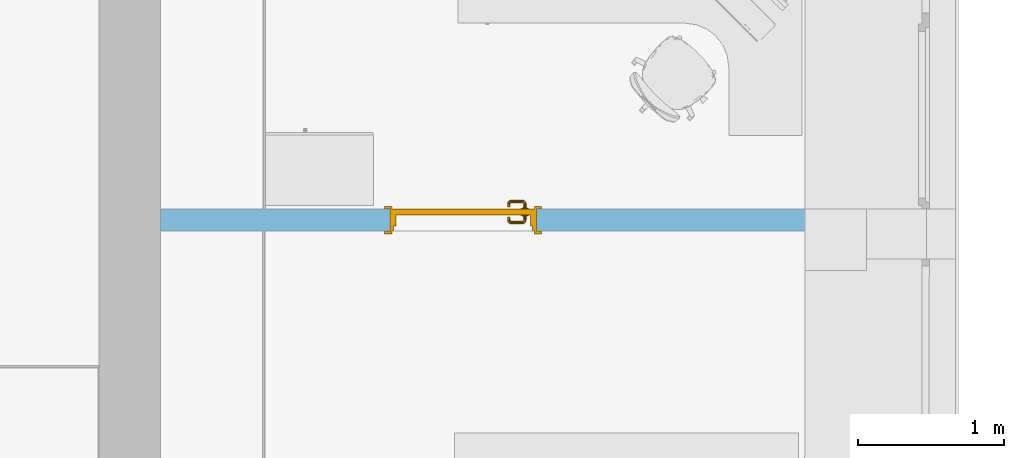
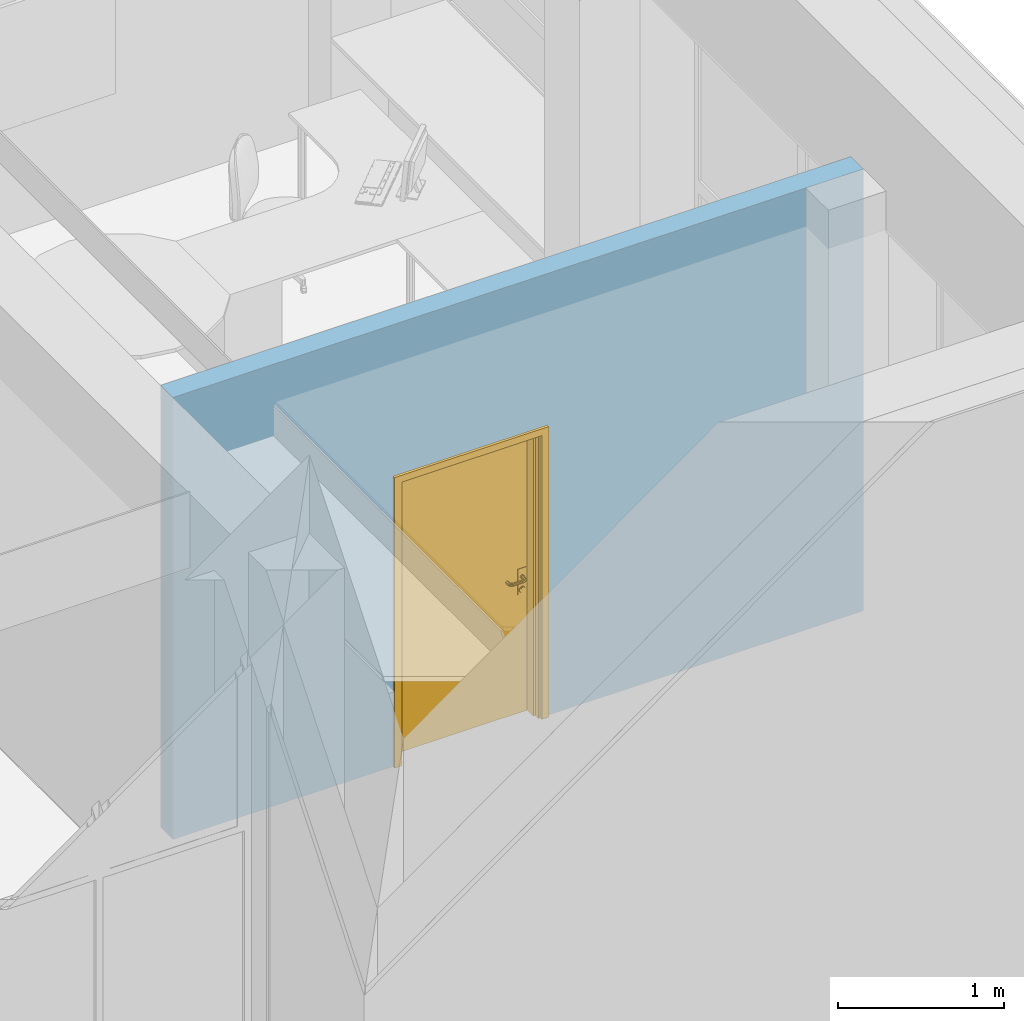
# One storey, part 45 of 194: 1 door, 1 opening, plus 1 element that does not belong to this part.
"""IFC2X3 building model written with IfcOpenShell, lengths in millimetres."""

from ifc_helpers import new_model, entity, si_unit, converted_unit, derived_unit, money_unit, direction, frame, origin_with_axes, origin_2d_with_axis, place, context, subcontext, project, spatial, polyline, rectangle, outline, extrude, open_shell, faceted_brep, surface_model, material, layer, layer_set, layer_usage, type_object, element, fill, save


model = new_model("IFC2X3")

# Units and contexts
model_context = context("Model", 3, precision=1e-05, world=origin_with_axes(), true_north=direction((0.0, 1.0)))
body_context = subcontext(model_context, "Body", "Model", "MODEL_VIEW")
ifc_project = project(units=[si_unit("LENGTHUNIT", "METRE", prefix="MILLI"), si_unit("AREAUNIT", "SQUARE_METRE"), si_unit("VOLUMEUNIT", "CUBIC_METRE"), converted_unit("PLANEANGLEUNIT", "DEGREE", entity("IfcPlaneAngleMeasure", 0.0174532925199), si_unit("PLANEANGLEUNIT", "RADIAN"), dimensions=[0, 0, 0, 0, 0, 0, 0]), si_unit("SOLIDANGLEUNIT", "STERADIAN"), money_unit("EUR"), converted_unit("TIMEUNIT", "Year", entity("IfcTimeMeasure", 31556926.0), si_unit("TIMEUNIT", "SECOND"), dimensions=[0, 0, 1, 0, 0, 0, 0]), si_unit("MASSUNIT", "GRAM", prefix="KILO"), si_unit("THERMODYNAMICTEMPERATUREUNIT", "DEGREE_CELSIUS"), si_unit("LUMINOUSINTENSITYUNIT", "LUMEN"), si_unit("ENERGYUNIT", "JOULE", prefix="MEGA"), derived_unit("THERMALCONDUCTANCEUNIT", [(si_unit("POWERUNIT", "WATT"), 1), (si_unit("LENGTHUNIT", "METRE"), -1), (si_unit("THERMODYNAMICTEMPERATUREUNIT", "KELVIN"), -1)]), derived_unit("SPECIFICHEATCAPACITYUNIT", [(si_unit("ENERGYUNIT", "JOULE"), 1), (si_unit("MASSUNIT", "GRAM", prefix="KILO"), -1), (si_unit("THERMODYNAMICTEMPERATUREUNIT", "KELVIN"), -1)]), derived_unit("MASSDENSITYUNIT", [(si_unit("MASSUNIT", "GRAM", prefix="KILO"), 1), (si_unit("VOLUMEUNIT", "CUBIC_METRE"), -1)])], contexts=[model_context])

# Site, building, storey
site_placement = place(None, origin_with_axes())
site = spatial("IfcSite", under=ifc_project, at=site_placement, Name="Site", CompositionType="ELEMENT")
building_placement = place(site_placement, origin_with_axes())
building = spatial("IfcBuilding", under=site, at=building_placement, Name="Building", CompositionType="ELEMENT")
storey_placement = place(building_placement, frame((0.0, 0.0, 3000.0), z_axis=(0.0, 0.0, 1.0), x_axis=(1.0, 0.0, 0.0)))
storey = spatial("IfcBuildingStorey", under=building, at=storey_placement, Name="2 KORRUS", CompositionType="ELEMENT", Elevation=3000.0)

# Wall, opening, door
ifc_material = material(Name="Kivi -Ol.Olev Konstruktsioon")
ifc_layer = layer(ifc_material, 150.0, ventilated="UNKNOWN")
ifc_layer_set = layer_set([ifc_layer], Name="ol.olev ss 150")
ifc_layer_usage = layer_usage(ifc_layer_set, "AXIS2", "POSITIVE", -150.0)
wall_type = type_object("IfcWallType", Name="SW - 022", PredefinedType="NOTDEFINED")
wall_placement = place(storey_placement, frame((39738.0685274, 7740.14586044, 0.0), z_axis=(0.0, 0.0, 1.0), x_axis=(1.0, 0.0, 0.0)))
wall = element("IfcWallStandardCase", 1, at=wall_placement, inside=storey, type_object=wall_type, material=ifc_layer_usage, Name="ol.olev ss 150", context=body_context, shape_type="SweptSolid", body=[
    extrude(outline(polyline([(420.0, -150.0), (5222.39994979, -150.0), (5222.48328174, 0.0), (420.0, 0.0), (420.0, -150.0)])), origin_with_axes(), (0.0, 0.0, 1.0), 3250.0),
])
opening_placement = place(wall_placement, frame((2487.1190222, 0.0, 0.0), z_axis=(0.0, 0.0, 1.0), x_axis=(1.0, 0.0, 0.0)))
opening = element("IfcOpeningElement", 2, at=opening_placement, cuts=wall, Name="Siseuks * Door 22", context=body_context, shape_type="SweptSolid", body=[
    extrude(rectangle(XDim=1000.0, YDim=2100.0, at=origin_2d_with_axis()), frame((0.0, -150.0, 1050.0), z_axis=(0.0, -1.0, 0.0), x_axis=(-1.0, 0.0, 0.0)), (0.0, 0.0, -1.0), 450.0),
    extrude(rectangle(XDim=1074.0, YDim=2137.0, at=origin_2d_with_axis()), frame((0.0, -150.0, 1068.5), z_axis=(0.0, -1.0, 0.0), x_axis=(-1.0, 0.0, 0.0)), (0.0, 0.0, 1.0), 150.0),
    extrude(rectangle(XDim=1074.0, YDim=2137.0, at=origin_2d_with_axis()), frame((0.0, 0.0, 1068.5), z_axis=(0.0, 1.0, 0.0), x_axis=(-1.0, 0.0, 0.0)), (0.0, 0.0, 1.0), 150.0),
])
door_style = type_object("IfcDoorStyle", Name="SU-C205   1\xa0000×2\xa0100", ConstructionType="NOTDEFINED", OperationType="SINGLE_SWING_LEFT", ParameterTakesPrecedence=False, Sizeable=False)
door_placement = place(opening_placement, frame((-500.0, 0.0, 0.0), z_axis=(0.0, 0.0, 1.0), x_axis=(1.0, 0.0, 0.0)))
door = element("IfcDoor", 3, at=door_placement, inside=storey, type_object=door_style, Name="Siseuks * Door 22", OverallHeight=2100.0, OverallWidth=1000.0, context=body_context, shape_type="SurfaceModel", body=[
    faceted_brep([(1000.0, -115.0, 0.0), (1000.0, -150.0, 0.0), (975.0, -150.0, 0.0), (975.0, -115.0, 0.0), (1000.0, -115.0, 2100.0), (1000.0, -150.0, 2100.0), (975.0, -150.0, 2075.0), (975.0, -115.0, 2075.0)], [[[0, 1, 2, 3]], [[4, 5, 1, 0]], [[1, 5, 6, 2]], [[3, 2, 6, 7]], [[0, 3, 7, 4]], [[7, 6, 5, 4]]]),
    faceted_brep([(0.0, -115.0, 2100.0), (0.0, -150.0, 2100.0), (25.0, -150.0, 2075.0), (25.0, -115.0, 2075.0), (0.0, -115.0, 0.0), (0.0, -150.0, 0.0), (25.0, -150.0, 0.0), (25.0, -115.0, 0.0)], [[[0, 1, 2, 3]], [[4, 5, 1, 0]], [[1, 5, 6, 2]], [[3, 2, 6, 7]], [[0, 3, 7, 4]], [[7, 6, 5, 4]]]),
    faceted_brep([(975.0, -115.0, 2075.0), (975.0, -150.0, 2075.0), (25.0, -150.0, 2075.0), (25.0, -115.0, 2075.0), (1000.0, -115.0, 2100.0), (1000.0, -150.0, 2100.0), (0.0, -150.0, 2100.0), (0.0, -115.0, 2100.0)], [[[0, 1, 2, 3]], [[4, 5, 1, 0]], [[1, 5, 6, 2]], [[3, 2, 6, 7]], [[0, 3, 7, 4]], [[7, 6, 5, 4]]]),
    faceted_brep([(1037.0, -169.0, 0.0), (987.0, -169.0, 0.0), (987.0, -150.0, 0.0), (1037.0, -150.0, 0.0), (1037.0, -169.0, 2137.0), (987.0, -169.0, 2087.0), (987.0, -150.0, 2087.0), (1037.0, -150.0, 2137.0)], [[[0, 1, 2, 3]], [[0, 4, 5, 1]], [[1, 5, 6, 2]], [[3, 2, 6, 7]], [[4, 0, 3, 7]], [[5, 4, 7, 6]]]),
    faceted_brep([(-37.0, -169.0, 2137.0), (13.0, -169.0, 2087.0), (13.0, -150.0, 2087.0), (-37.0, -150.0, 2137.0), (-37.0, -169.0, 0.0), (13.0, -169.0, 0.0), (13.0, -150.0, 0.0), (-37.0, -150.0, 0.0)], [[[0, 1, 2, 3]], [[0, 4, 5, 1]], [[1, 5, 6, 2]], [[3, 2, 6, 7]], [[4, 0, 3, 7]], [[5, 4, 7, 6]]]),
    faceted_brep([(1037.0, -169.0, 2137.0), (987.0, -169.0, 2087.0), (987.0, -150.0, 2087.0), (1037.0, -150.0, 2137.0), (-37.0, -169.0, 2137.0), (13.0, -169.0, 2087.0), (13.0, -150.0, 2087.0), (-37.0, -150.0, 2137.0)], [[[0, 1, 2, 3]], [[0, 4, 5, 1]], [[1, 5, 6, 2]], [[3, 2, 6, 7]], [[4, 0, 3, 7]], [[5, 4, 7, 6]]]),
    faceted_brep([(1037.0, 19.0000000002, 0.0), (1037.0, 0.0, 0.0), (987.0, 0.0, 0.0), (987.0, 19.0000000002, 0.0), (1037.0, 19.0000000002, 2137.0), (1037.0, 0.0, 2137.0), (987.0, 0.0, 2087.0), (987.0, 19.0000000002, 2087.0)], [[[0, 1, 2, 3]], [[4, 5, 1, 0]], [[1, 5, 6, 2]], [[3, 2, 6, 7]], [[0, 3, 7, 4]], [[7, 6, 5, 4]]]),
    faceted_brep([(-37.0, 19.0000000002, 2137.0), (-37.0, 0.0, 2137.0), (13.0, 0.0, 2087.0), (13.0, 19.0000000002, 2087.0), (-37.0, 19.0000000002, 0.0), (-37.0, 0.0, 0.0), (13.0, 0.0, 0.0), (13.0, 19.0000000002, 0.0)], [[[0, 1, 2, 3]], [[4, 5, 1, 0]], [[1, 5, 6, 2]], [[3, 2, 6, 7]], [[0, 3, 7, 4]], [[7, 6, 5, 4]]]),
    faceted_brep([(1037.0, 19.0000000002, 2137.0), (1037.0, 0.0, 2137.0), (987.0, 0.0, 2087.0), (987.0, 19.0000000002, 2087.0), (-37.0, 19.0000000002, 2137.0), (-37.0, 0.0, 2137.0), (13.0, 0.0, 2087.0), (13.0, 19.0000000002, 2087.0)], [[[0, 1, 2, 3]], [[4, 5, 1, 0]], [[1, 5, 6, 2]], [[3, 2, 6, 7]], [[0, 3, 7, 4]], [[7, 6, 5, 4]]]),
    faceted_brep([(960.0, -40.0, 0.0), (960.0, -115.0, 0.0), (960.0, -115.0, 2060.0), (960.0, -40.0, 2060.0), (972.0, -40.0, 0.0), (972.0, 0.0, 0.0), (1000.0, 0.0, 0.0), (1000.0, -115.0, 0.0), (1000.0, -115.0, 2060.0), (972.0, -40.0, 2060.0), (1000.0, 0.0, 2060.0), (972.0, 0.0, 2060.0)], [[[0, 1, 2, 3]], [[4, 5, 6, 7, 1, 0]], [[1, 7, 8, 2]], [[9, 3, 2, 8, 10, 11]], [[9, 4, 0, 3]], [[11, 5, 4, 9]], [[11, 10, 6, 5]], [[6, 10, 8, 7]]]),
    faceted_brep([(28.0, -40.0, 2060.0), (28.0, 0.0, 2060.0), (0.0, 0.0, 2060.0), (0.0, -115.0, 2060.0), (40.0, -115.0, 2060.0), (40.0, -40.0, 2060.0), (28.0, -40.0, 0.0), (28.0, 0.0, 0.0), (0.0, 0.0, 0.0), (0.0, -115.0, 0.0), (40.0, -115.0, 0.0), (40.0, -40.0, 0.0)], [[[0, 1, 2, 3, 4, 5]], [[0, 6, 7, 1]], [[7, 8, 2, 1]], [[2, 8, 9, 3]], [[3, 9, 10, 4]], [[5, 4, 10, 11]], [[5, 11, 6, 0]], [[6, 11, 10, 9, 8, 7]]]),
    faceted_brep([(972.0, 0.0, 2072.0), (28.0, 0.0, 2072.0), (28.0, 0.0, 2060.0), (0.0, 0.0, 2060.0), (0.0, 0.0, 2100.0), (1000.0, 0.0, 2100.0), (1000.0, 0.0, 2060.0), (972.0, 0.0, 2060.0), (972.0, -40.0, 2072.0), (28.0, -40.0, 2072.0), (28.0, -40.0, 2060.0), (40.0, -40.0, 2060.0), (40.0, -115.0, 2060.0), (0.0, -115.0, 2060.0), (0.0, -115.0, 2100.0), (1000.0, -115.0, 2100.0), (1000.0, -115.0, 2060.0), (972.0, -40.0, 2060.0), (960.0, -115.0, 2060.0), (960.0, -40.0, 2060.0)], [[[0, 1, 2, 3, 4, 5, 6, 7]], [[0, 8, 9, 1]], [[1, 9, 10, 2]], [[10, 11, 12, 13, 3, 2]], [[4, 3, 13, 14]], [[5, 4, 14, 15]], [[6, 5, 15, 16]], [[17, 7, 6, 16, 18, 19]], [[7, 17, 8, 0]], [[10, 9, 8, 17, 19, 11]], [[19, 18, 12, 11]], [[12, 18, 16, 15, 14, 13]]]),
    faceted_brep([(950.5, -40.0, 1060.0), (893.5, -40.0, 1060.0), (893.5, -42.9999999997, 1060.0), (950.5, -42.9999999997, 1060.0), (950.5, -40.0, 870.0), (893.5, -40.0, 870.0), (893.5, -42.9999999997, 870.0), (950.5, -42.9999999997, 870.0)], [[[0, 1, 2, 3]], [[0, 4, 5, 1]], [[1, 5, 6, 2]], [[3, 2, 6, 7]], [[4, 0, 3, 7]], [[5, 4, 7, 6]]]),
    surface_model("IfcShellBasedSurfaceModel", [(912.0, -52.9999999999, 1000.0), (914.928932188, -52.9999999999, 992.928932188), (914.928932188, -72.3035606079, 992.928932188), (912.0, -72.0150859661, 1000.0), (922.0, -52.9999999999, 990.0), (922.0, -73.0000000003, 990.0), (913.816790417, -77.8946748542, 992.928932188), (911.057796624, -76.7518622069, 1000.0), (914.928932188, -52.9999999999, 1007.07106781), (914.928932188, -72.3035606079, 1007.07106781), (929.071067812, -52.9999999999, 992.928932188), (929.071067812, -73.6964393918, 992.928932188), (920.47759065, -80.6536686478, 990.0), (911.044179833, -82.0441798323, 992.928932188), (908.932537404, -79.9325374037, 1000.0), (913.816790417, -77.8946748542, 1007.07106781), (922.0, -52.9999999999, 1010.0), (922.0, -73.0000000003, 1010.0), (932.0, -52.9999999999, 1000.0), (932.0, -73.9849140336, 1000.0), (927.138390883, -83.4126624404, 992.928932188), (916.142135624, -87.1421356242, 990.0), (906.894674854, -84.8167904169, 992.928932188), (905.751862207, -82.0577966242, 1000.0), (911.044179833, -82.0441798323, 1007.07106781), (920.47759065, -80.6536686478, 1010.0), (929.071067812, -52.9999999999, 1007.07106781), (929.071067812, -73.6964393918, 1007.07106781), (929.897384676, -84.5554750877, 1000.0), (921.240091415, -92.2400914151, 992.928932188), (909.653668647, -91.4775906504, 990.0), (901.303560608, -85.9289321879, 992.928932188), (901.015085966, -82.9999999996, 1000.0), (906.894674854, -84.8167904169, 1007.07106781), (916.142135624, -87.1421356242, 1010.0), (927.138390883, -83.4126624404, 1007.07106781), (923.351733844, -94.3517338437, 1000.0), (912.41266244, -98.1383908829, 992.928932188), (902.0, -92.9999999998, 990.0), (832.696439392, -85.9289321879, 992.928932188), (832.984914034, -82.9999999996, 1000.0), (901.303560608, -85.9289321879, 1007.07106781), (909.653668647, -91.4775906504, 1010.0), (921.240091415, -92.2400914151, 1007.07106781), (913.555475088, -100.897384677, 1000.0), (902.696439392, -100.071067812, 992.928932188), (832.0, -92.9999999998, 990.0), (827.105325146, -84.8167904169, 992.928932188), (828.248137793, -82.0577966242, 1000.0), (832.696439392, -85.9289321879, 1007.07106781), (902.0, -92.9999999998, 1010.0), (912.41266244, -98.1383908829, 1007.07106781), (902.984914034, -103.0, 1000.0), (831.303560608, -100.071067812, 992.928932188), (824.346331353, -91.4775906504, 990.0), (822.955820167, -82.0441798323, 992.928932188), (825.067462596, -79.9325374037, 1000.0), (827.105325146, -84.8167904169, 1007.07106781), (832.0, -92.9999999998, 1010.0), (902.696439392, -100.071067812, 1007.07106781), (831.015085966, -103.0, 1000.0), (821.58733756, -98.1383908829, 992.928932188), (817.857864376, -87.1421356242, 990.0), (820.183209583, -77.8946748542, 992.928932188), (822.942203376, -76.7518622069, 1000.0), (822.955820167, -82.0441798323, 1007.07106781), (824.346331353, -91.4775906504, 1010.0), (831.303560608, -100.071067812, 1007.07106781), (820.444524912, -100.897384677, 1000.0), (812.759908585, -92.2400914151, 992.928932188), (813.52240935, -80.6536686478, 990.0), (819.071067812, -72.3035606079, 992.928932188), (822.0, -72.0150859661, 1000.0), (820.183209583, -77.8946748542, 1007.07106781), (817.857864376, -87.1421356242, 1010.0), (821.58733756, -98.1383908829, 1007.07106781), (810.648266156, -94.3517338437, 1000.0), (806.861609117, -83.4126624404, 992.928932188), (812.0, -73.0000000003, 990.0), (819.071067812, -52.9999999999, 992.928932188), (822.0, -52.9999999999, 1000.0), (819.071067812, -72.3035606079, 1007.07106781), (813.52240935, -80.6536686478, 1010.0), (812.759908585, -92.2400914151, 1007.07106781), (804.102615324, -84.5554750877, 1000.0), (804.928932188, -73.6964393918, 992.928932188), (812.0, -52.9999999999, 990.0), (804.928932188, -52.9999999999, 992.928932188), (802.0, -52.9999999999, 1000.0), (804.928932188, -52.9999999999, 1007.07106781), (812.0, -52.9999999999, 1010.0), (819.071067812, -52.9999999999, 1007.07106781), (812.0, -73.0000000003, 1010.0), (806.861609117, -83.4126624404, 1007.07106781), (802.0, -73.9849140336, 1000.0), (804.928932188, -73.6964393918, 1007.07106781)], [open_shell([[[0, 1, 2, 3]], [[1, 4, 5, 2]], [[3, 2, 6, 7]], [[8, 0, 3, 9]], [[4, 10, 11, 5]], [[2, 5, 12, 6]], [[7, 6, 13, 14]], [[9, 3, 7, 15]], [[16, 8, 9, 17]], [[10, 18, 19, 11]], [[5, 11, 20, 12]], [[6, 12, 21, 13]], [[14, 13, 22, 23]], [[15, 7, 14, 24]], [[17, 9, 15, 25]], [[26, 16, 17, 27]], [[18, 26, 27, 19]], [[11, 19, 28, 20]], [[12, 20, 29, 21]], [[13, 21, 30, 22]], [[23, 22, 31, 32]], [[24, 14, 23, 33]], [[25, 15, 24, 34]], [[27, 17, 25, 35]], [[19, 27, 35, 28]], [[20, 28, 36, 29]], [[21, 29, 37, 30]], [[22, 30, 38, 31]], [[32, 31, 39, 40]], [[33, 23, 32, 41]], [[34, 24, 33, 42]], [[35, 25, 34, 43]], [[28, 35, 43, 36]], [[29, 36, 44, 37]], [[30, 37, 45, 38]], [[31, 38, 46, 39]], [[40, 39, 47, 48]], [[41, 32, 40, 49]], [[42, 33, 41, 50]], [[43, 34, 42, 51]], [[36, 43, 51, 44]], [[37, 44, 52, 45]], [[38, 45, 53, 46]], [[39, 46, 54, 47]], [[48, 47, 55, 56]], [[49, 40, 48, 57]], [[50, 41, 49, 58]], [[51, 42, 50, 59]], [[44, 51, 59, 52]], [[45, 52, 60, 53]], [[46, 53, 61, 54]], [[47, 54, 62, 55]], [[56, 55, 63, 64]], [[57, 48, 56, 65]], [[58, 49, 57, 66]], [[59, 50, 58, 67]], [[52, 59, 67, 60]], [[53, 60, 68, 61]], [[54, 61, 69, 62]], [[55, 62, 70, 63]], [[64, 63, 71, 72]], [[65, 56, 64, 73]], [[66, 57, 65, 74]], [[67, 58, 66, 75]], [[60, 67, 75, 68]], [[61, 68, 76, 69]], [[62, 69, 77, 70]], [[63, 70, 78, 71]], [[72, 71, 79, 80]], [[73, 64, 72, 81]], [[74, 65, 73, 82]], [[75, 66, 74, 83]], [[68, 75, 83, 76]], [[69, 76, 84, 77]], [[70, 77, 85, 78]], [[71, 78, 86, 79]], [[80, 79, 86, 87, 88, 89, 90, 91]], [[81, 72, 80, 91]], [[82, 73, 81, 92]], [[83, 74, 82, 93]], [[76, 83, 93, 84]], [[77, 84, 94, 85]], [[78, 85, 87, 86]], [[85, 94, 88, 87]], [[94, 95, 89, 88]], [[95, 92, 90, 89]], [[92, 81, 91, 90]], [[93, 82, 92, 95]], [[84, 93, 95, 94]]])]),
    faceted_brep([(911.607695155, -52.9999999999, 994.0), (910.0, -52.9999999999, 1000.0), (909.0, -42.9999999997, 1000.0), (910.741669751, -42.9999999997, 993.5), (916.0, -52.9999999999, 989.607695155), (922.0, -52.9999999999, 988.0), (928.0, -52.9999999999, 989.607695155), (932.392304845, -52.9999999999, 994.0), (934.0, -52.9999999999, 1000.0), (932.392304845, -52.9999999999, 1006.0), (928.0, -52.9999999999, 1010.39230485), (922.0, -52.9999999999, 1012.0), (916.0, -52.9999999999, 1010.39230485), (911.607695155, -52.9999999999, 1006.0), (910.741669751, -42.9999999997, 1006.5), (915.5, -42.9999999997, 1011.25833025), (922.0, -42.9999999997, 1013.0), (928.5, -42.9999999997, 1011.25833025), (933.258330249, -42.9999999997, 1006.5), (935.0, -42.9999999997, 1000.0), (933.258330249, -42.9999999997, 993.5), (928.5, -42.9999999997, 988.741669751), (922.0, -42.9999999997, 987.0), (915.5, -42.9999999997, 988.741669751)], [[[0, 1, 2, 3]], [[1, 0, 4, 5, 6, 7, 8, 9, 10, 11, 12, 13]], [[1, 13, 14, 2]], [[2, 14, 15, 16, 17, 18, 19, 20, 21, 22, 23, 3]], [[4, 0, 3, 23]], [[5, 4, 23, 22]], [[6, 5, 22, 21]], [[7, 6, 21, 20]], [[8, 7, 20, 19]], [[9, 8, 19, 18]], [[10, 9, 18, 17]], [[11, 10, 17, 16]], [[12, 11, 16, 15]], [[13, 12, 15, 14]]]),
    faceted_brep([(904.679491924, -46.9999999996, 895.0), (902.0, -46.9999999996, 905.0), (900.0, -42.9999999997, 905.0), (902.947441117, -42.9999999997, 894.0), (912.0, -46.9999999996, 887.679491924), (922.0, -46.9999999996, 885.0), (932.0, -46.9999999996, 887.679491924), (939.320508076, -46.9999999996, 895.0), (942.0, -46.9999999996, 905.0), (939.320508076, -46.9999999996, 915.0), (932.0, -46.9999999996, 922.320508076), (922.0, -46.9999999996, 925.0), (912.0, -46.9999999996, 922.320508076), (904.679491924, -46.9999999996, 915.0), (902.947441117, -42.9999999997, 916.0), (911.0, -42.9999999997, 924.052558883), (922.0, -42.9999999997, 927.0), (933.0, -42.9999999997, 924.052558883), (941.052558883, -42.9999999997, 916.0), (944.0, -42.9999999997, 905.0), (941.052558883, -42.9999999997, 894.0), (933.0, -42.9999999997, 885.947441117), (922.0, -42.9999999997, 883.0), (911.0, -42.9999999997, 885.947441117)], [[[0, 1, 2, 3]], [[1, 0, 4, 5, 6, 7, 8, 9, 10, 11, 12, 13]], [[1, 13, 14, 2]], [[2, 14, 15, 16, 17, 18, 19, 20, 21, 22, 23, 3]], [[4, 0, 3, 23]], [[5, 4, 23, 22]], [[6, 5, 22, 21]], [[7, 6, 21, 20]], [[8, 7, 20, 19]], [[9, 8, 19, 18]], [[10, 9, 18, 17]], [[11, 10, 17, 16]], [[12, 11, 16, 15]], [[13, 12, 15, 14]]]),
    faceted_brep([(917.050252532, -49.0, 909.050252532), (915.0, -49.0, 914.0), (914.0, -46.9999999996, 914.0), (916.34314575, -46.9999999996, 908.343145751), (922.0, -49.0, 907.0), (926.949747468, -49.0, 909.050252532), (929.0, -49.0, 914.0), (926.949747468, -49.0, 918.949747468), (922.0, -49.0, 921.0), (917.050252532, -49.0, 918.949747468), (916.34314575, -46.9999999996, 919.656854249), (922.0, -46.9999999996, 922.0), (927.656854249, -46.9999999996, 919.656854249), (930.0, -46.9999999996, 914.0), (927.656854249, -46.9999999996, 908.343145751), (922.0, -46.9999999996, 906.0)], [[[0, 1, 2, 3]], [[1, 0, 4, 5, 6, 7, 8, 9]], [[1, 9, 10, 2]], [[2, 10, 11, 12, 13, 14, 15, 3]], [[4, 0, 3, 15]], [[5, 4, 15, 14]], [[6, 5, 14, 13]], [[7, 6, 13, 12]], [[8, 7, 12, 11]], [[9, 8, 11, 10]]]),
    faceted_brep([(950.5, 0.0, 1060.0), (950.5, 2.9999999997, 1060.0), (893.5, 2.9999999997, 1060.0), (893.5, 0.0, 1060.0), (950.5, 0.0, 870.0), (950.5, 2.9999999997, 870.0), (893.5, 2.9999999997, 870.0), (893.5, 0.0, 870.0)], [[[0, 1, 2, 3]], [[4, 5, 1, 0]], [[1, 5, 6, 2]], [[3, 2, 6, 7]], [[0, 3, 7, 4]], [[7, 6, 5, 4]]]),
    surface_model("IfcShellBasedSurfaceModel", [(912.0, 12.9999999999, 1000.0), (912.0, 32.0150859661, 1000.0), (914.928932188, 32.3035606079, 992.928932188), (914.928932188, 12.9999999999, 992.928932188), (914.928932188, 12.9999999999, 1007.07106781), (914.928932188, 32.3035606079, 1007.07106781), (911.057796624, 36.751862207, 1000.0), (913.816790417, 37.8946748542, 992.928932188), (922.0, 33.0000000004, 990.0), (922.0, 12.9999999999, 990.0), (922.0, 12.9999999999, 1010.0), (922.0, 33.0000000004, 1010.0), (913.816790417, 37.8946748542, 1007.07106781), (908.932537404, 39.9325374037, 1000.0), (911.044179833, 42.0441798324, 992.928932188), (920.47759065, 40.6536686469, 990.0), (929.071067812, 33.6964393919, 992.928932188), (929.071067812, 12.9999999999, 992.928932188), (929.071067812, 12.9999999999, 1007.07106781), (929.071067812, 33.6964393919, 1007.07106781), (920.47759065, 40.6536686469, 1010.0), (911.044179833, 42.0441798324, 1007.07106781), (905.751862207, 42.0577966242, 1000.0), (906.894674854, 44.8167904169, 992.928932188), (916.142135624, 47.1421356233, 990.0), (927.138390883, 43.4126624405, 992.928932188), (932.0, 33.9849140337, 1000.0), (932.0, 12.9999999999, 1000.0), (927.138390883, 43.4126624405, 1007.07106781), (916.142135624, 47.1421356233, 1010.0), (906.894674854, 44.8167904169, 1007.07106781), (901.015085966, 42.9999999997, 1000.0), (901.303560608, 45.928932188, 992.928932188), (909.653668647, 51.4775906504, 990.0), (921.240091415, 52.2400914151, 992.928932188), (929.897384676, 44.5554750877, 1000.0), (921.240091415, 52.2400914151, 1007.07106781), (909.653668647, 51.4775906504, 1010.0), (901.303560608, 45.928932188, 1007.07106781), (832.984914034, 42.9999999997, 1000.0), (832.696439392, 45.928932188, 992.928932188), (902.0, 52.9999999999, 990.0), (912.41266244, 58.138390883, 992.928932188), (923.351733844, 54.3517338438, 1000.0), (912.41266244, 58.138390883, 1007.07106781), (902.0, 52.9999999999, 1010.0), (832.696439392, 45.928932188, 1007.07106781), (828.248137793, 42.0577966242, 1000.0), (827.105325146, 44.8167904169, 992.928932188), (832.0, 52.9999999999, 990.0), (902.696439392, 60.0710678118, 992.928932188), (913.555475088, 60.8973846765, 1000.0), (902.696439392, 60.0710678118, 1007.07106781), (832.0, 52.9999999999, 1010.0), (827.105325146, 44.8167904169, 1007.07106781), (825.067462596, 39.9325374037, 1000.0), (822.955820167, 42.0441798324, 992.928932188), (824.346331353, 51.4775906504, 990.0), (831.303560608, 60.0710678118, 992.928932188), (902.984914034, 63.0000000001, 1000.0), (831.303560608, 60.0710678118, 1007.07106781), (824.346331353, 51.4775906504, 1010.0), (822.955820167, 42.0441798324, 1007.07106781), (822.942203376, 36.751862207, 1000.0), (820.183209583, 37.8946748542, 992.928932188), (817.857864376, 47.1421356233, 990.0), (821.58733756, 58.138390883, 992.928932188), (831.015085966, 63.0000000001, 1000.0), (821.58733756, 58.138390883, 1007.07106781), (817.857864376, 47.1421356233, 1010.0), (820.183209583, 37.8946748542, 1007.07106781), (822.0, 32.0150859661, 1000.0), (819.071067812, 32.3035606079, 992.928932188), (813.52240935, 40.6536686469, 990.0), (812.759908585, 52.2400914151, 992.928932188), (820.444524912, 60.8973846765, 1000.0), (812.759908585, 52.2400914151, 1007.07106781), (813.52240935, 40.6536686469, 1010.0), (819.071067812, 32.3035606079, 1007.07106781), (822.0, 12.9999999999, 1000.0), (819.071067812, 12.9999999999, 992.928932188), (812.0, 33.0000000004, 990.0), (806.861609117, 43.4126624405, 992.928932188), (810.648266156, 54.3517338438, 1000.0), (806.861609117, 43.4126624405, 1007.07106781), (812.0, 33.0000000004, 1010.0), (819.071067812, 12.9999999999, 1007.07106781), (812.0, 12.9999999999, 1010.0), (804.928932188, 12.9999999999, 1007.07106781), (802.0, 12.9999999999, 1000.0), (804.928932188, 12.9999999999, 992.928932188), (812.0, 12.9999999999, 990.0), (804.928932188, 33.6964393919, 992.928932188), (804.102615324, 44.5554750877, 1000.0), (804.928932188, 33.6964393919, 1007.07106781), (802.0, 33.9849140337, 1000.0)], [open_shell([[[0, 1, 2, 3]], [[4, 5, 1, 0]], [[1, 6, 7, 2]], [[3, 2, 8, 9]], [[10, 11, 5, 4]], [[5, 12, 6, 1]], [[6, 13, 14, 7]], [[2, 7, 15, 8]], [[9, 8, 16, 17]], [[18, 19, 11, 10]], [[11, 20, 12, 5]], [[12, 21, 13, 6]], [[13, 22, 23, 14]], [[7, 14, 24, 15]], [[8, 15, 25, 16]], [[17, 16, 26, 27]], [[27, 26, 19, 18]], [[19, 28, 20, 11]], [[20, 29, 21, 12]], [[21, 30, 22, 13]], [[22, 31, 32, 23]], [[14, 23, 33, 24]], [[15, 24, 34, 25]], [[16, 25, 35, 26]], [[26, 35, 28, 19]], [[28, 36, 29, 20]], [[29, 37, 30, 21]], [[30, 38, 31, 22]], [[31, 39, 40, 32]], [[23, 32, 41, 33]], [[24, 33, 42, 34]], [[25, 34, 43, 35]], [[35, 43, 36, 28]], [[36, 44, 37, 29]], [[37, 45, 38, 30]], [[38, 46, 39, 31]], [[39, 47, 48, 40]], [[32, 40, 49, 41]], [[33, 41, 50, 42]], [[34, 42, 51, 43]], [[43, 51, 44, 36]], [[44, 52, 45, 37]], [[45, 53, 46, 38]], [[46, 54, 47, 39]], [[47, 55, 56, 48]], [[40, 48, 57, 49]], [[41, 49, 58, 50]], [[42, 50, 59, 51]], [[51, 59, 52, 44]], [[52, 60, 53, 45]], [[53, 61, 54, 46]], [[54, 62, 55, 47]], [[55, 63, 64, 56]], [[48, 56, 65, 57]], [[49, 57, 66, 58]], [[50, 58, 67, 59]], [[59, 67, 60, 52]], [[60, 68, 61, 53]], [[61, 69, 62, 54]], [[62, 70, 63, 55]], [[63, 71, 72, 64]], [[56, 64, 73, 65]], [[57, 65, 74, 66]], [[58, 66, 75, 67]], [[67, 75, 68, 60]], [[68, 76, 69, 61]], [[69, 77, 70, 62]], [[70, 78, 71, 63]], [[71, 79, 80, 72]], [[64, 72, 81, 73]], [[65, 73, 82, 74]], [[66, 74, 83, 75]], [[75, 83, 76, 68]], [[76, 84, 77, 69]], [[77, 85, 78, 70]], [[78, 86, 79, 71]], [[79, 86, 87, 88, 89, 90, 91, 80]], [[72, 80, 91, 81]], [[73, 81, 92, 82]], [[74, 82, 93, 83]], [[83, 93, 84, 76]], [[84, 94, 85, 77]], [[85, 87, 86, 78]], [[94, 88, 87, 85]], [[95, 89, 88, 94]], [[92, 90, 89, 95]], [[81, 91, 90, 92]], [[82, 92, 95, 93]], [[93, 95, 94, 84]]])]),
    faceted_brep([(911.607695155, 12.9999999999, 994.0), (910.741669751, 2.9999999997, 993.5), (909.0, 2.9999999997, 1000.0), (910.0, 12.9999999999, 1000.0), (916.0, 12.9999999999, 989.607695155), (915.5, 2.9999999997, 988.741669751), (922.0, 2.9999999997, 987.0), (928.5, 2.9999999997, 988.741669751), (933.258330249, 2.9999999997, 993.5), (935.0, 2.9999999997, 1000.0), (933.258330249, 2.9999999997, 1006.5), (928.5, 2.9999999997, 1011.25833025), (922.0, 2.9999999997, 1013.0), (915.5, 2.9999999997, 1011.25833025), (910.741669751, 2.9999999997, 1006.5), (911.607695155, 12.9999999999, 1006.0), (916.0, 12.9999999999, 1010.39230485), (922.0, 12.9999999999, 1012.0), (928.0, 12.9999999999, 1010.39230485), (932.392304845, 12.9999999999, 1006.0), (934.0, 12.9999999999, 1000.0), (932.392304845, 12.9999999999, 994.0), (928.0, 12.9999999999, 989.607695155), (922.0, 12.9999999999, 988.0)], [[[0, 1, 2, 3]], [[4, 5, 1, 0]], [[2, 1, 5, 6, 7, 8, 9, 10, 11, 12, 13, 14]], [[3, 2, 14, 15]], [[3, 15, 16, 17, 18, 19, 20, 21, 22, 23, 4, 0]], [[23, 6, 5, 4]], [[22, 7, 6, 23]], [[21, 8, 7, 22]], [[20, 9, 8, 21]], [[19, 10, 9, 20]], [[18, 11, 10, 19]], [[17, 12, 11, 18]], [[16, 13, 12, 17]], [[15, 14, 13, 16]]]),
    faceted_brep([(904.679491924, 6.99999999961, 895.0), (902.947441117, 2.9999999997, 894.0), (900.0, 2.9999999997, 905.0), (902.0, 6.99999999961, 905.0), (912.0, 6.99999999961, 887.679491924), (911.0, 2.9999999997, 885.947441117), (922.0, 2.9999999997, 883.0), (933.0, 2.9999999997, 885.947441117), (941.052558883, 2.9999999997, 894.0), (944.0, 2.9999999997, 905.0), (941.052558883, 2.9999999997, 916.0), (933.0, 2.9999999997, 924.052558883), (922.0, 2.9999999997, 927.0), (911.0, 2.9999999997, 924.052558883), (902.947441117, 2.9999999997, 916.0), (904.679491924, 6.99999999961, 915.0), (912.0, 6.99999999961, 922.320508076), (922.0, 6.99999999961, 925.0), (932.0, 6.99999999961, 922.320508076), (939.320508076, 6.99999999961, 915.0), (942.0, 6.99999999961, 905.0), (939.320508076, 6.99999999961, 895.0), (932.0, 6.99999999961, 887.679491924), (922.0, 6.99999999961, 885.0)], [[[0, 1, 2, 3]], [[4, 5, 1, 0]], [[2, 1, 5, 6, 7, 8, 9, 10, 11, 12, 13, 14]], [[3, 2, 14, 15]], [[3, 15, 16, 17, 18, 19, 20, 21, 22, 23, 4, 0]], [[23, 6, 5, 4]], [[22, 7, 6, 23]], [[21, 8, 7, 22]], [[20, 9, 8, 21]], [[19, 10, 9, 20]], [[18, 11, 10, 19]], [[17, 12, 11, 18]], [[16, 13, 12, 17]], [[15, 14, 13, 16]]]),
    faceted_brep([(917.050252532, 9.00000000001, 909.050252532), (916.34314575, 6.99999999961, 908.343145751), (914.0, 6.99999999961, 914.0), (915.0, 9.00000000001, 914.0), (922.0, 9.00000000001, 907.0), (922.0, 6.99999999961, 906.0), (927.656854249, 6.99999999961, 908.343145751), (930.0, 6.99999999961, 914.0), (927.656854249, 6.99999999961, 919.656854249), (922.0, 6.99999999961, 922.0), (916.34314575, 6.99999999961, 919.656854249), (917.050252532, 9.00000000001, 918.949747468), (922.0, 9.00000000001, 921.0), (926.949747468, 9.00000000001, 918.949747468), (929.0, 9.00000000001, 914.0), (926.949747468, 9.00000000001, 909.050252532)], [[[0, 1, 2, 3]], [[4, 5, 1, 0]], [[2, 1, 5, 6, 7, 8, 9, 10]], [[3, 2, 10, 11]], [[3, 11, 12, 13, 14, 15, 4, 0]], [[15, 6, 5, 4]], [[14, 7, 6, 15]], [[13, 8, 7, 14]], [[12, 9, 8, 13]], [[11, 10, 9, 12]]]),
    faceted_brep([(28.0, 0.0, 0.0), (972.0, 0.0, 0.0), (972.0, -40.0, 0.0), (28.0, -40.0, 0.0), (28.0, 0.0, 2072.0), (972.0, 0.0, 2072.0), (972.0, -40.0, 2072.0), (28.0, -40.0, 2072.0)], [[[0, 1, 2, 3]], [[0, 4, 5, 1]], [[1, 5, 6, 2]], [[3, 2, 6, 7]], [[4, 0, 3, 7]], [[5, 4, 7, 6]]]),
])
fill(opening, door)

save(model, "model.ifc")
